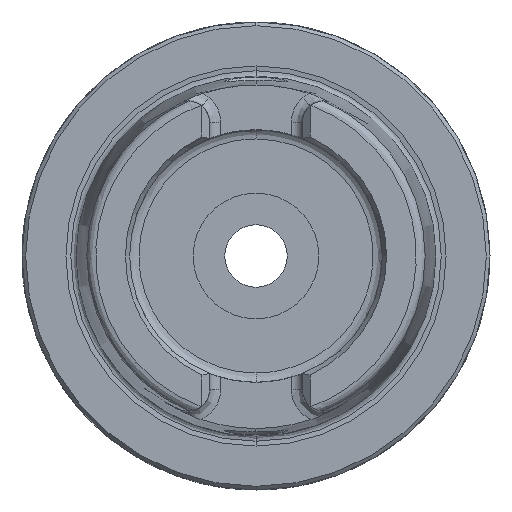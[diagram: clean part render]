
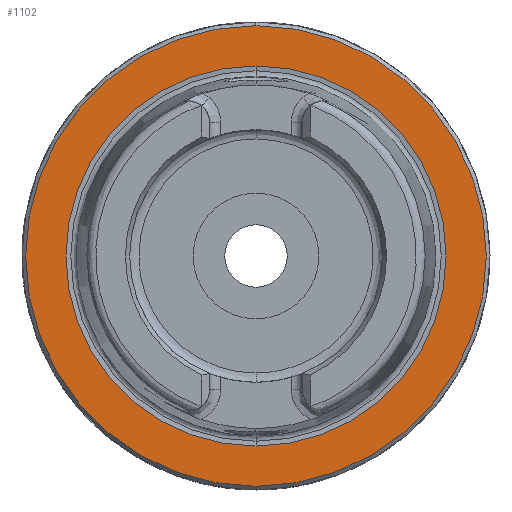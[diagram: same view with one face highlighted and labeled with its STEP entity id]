
A CAD part, left-side view. The second image highlights one B-rep face of the part: STEP entity #1102.
In plain terms, the highlighted planar face has unit normal (-1, 0, 0).
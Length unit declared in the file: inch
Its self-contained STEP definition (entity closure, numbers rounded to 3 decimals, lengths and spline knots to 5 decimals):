
#20 = FACE_OUTER_BOUND ( 'NONE', #2259, .T. ) ;
#330 = AXIS2_PLACEMENT_3D ( 'NONE', #3752, #1669, #3843 ) ;
#572 = EDGE_CURVE ( 'NONE', #8250, #3441, #1570, .T. ) ;
#716 = ORIENTED_EDGE ( 'NONE', *, *, #3345, .T. ) ;
#886 = CIRCLE ( 'NONE', #330, 1.0074 ) ;
#979 = CARTESIAN_POINT ( 'NONE',  ( 0., 0., 0. ) ) ;
#1002 = FACE_BOUND ( 'NONE', #7798, .T. ) ;
#1102 = ADVANCED_FACE ( 'NONE', ( #1002, #20 ), #2679, .T. ) ;
#1394 = DIRECTION ( 'NONE',  ( -1., 0., 0. ) ) ;
#1570 = CIRCLE ( 'NONE', #6870, 1.22047 ) ;
#1669 = DIRECTION ( 'NONE',  ( 1., 0., 0. ) ) ;
#1868 = VERTEX_POINT ( 'NONE', #6407 ) ;
#2137 = ORIENTED_EDGE ( 'NONE', *, *, #572, .F. ) ;
#2145 = CIRCLE ( 'NONE', #3652, 1.0074 ) ;
#2259 = EDGE_LOOP ( 'NONE', ( #2137, #4688 ) ) ;
#2679 = PLANE ( 'NONE',  #2824 ) ;
#2768 = AXIS2_PLACEMENT_3D ( 'NONE', #6786, #4822, #4156 ) ;
#2824 = AXIS2_PLACEMENT_3D ( 'NONE', #7368, #1394, #5359 ) ;
#3345 = EDGE_CURVE ( 'NONE', #6150, #1868, #886, .T. ) ;
#3441 = VERTEX_POINT ( 'NONE', #5368 ) ;
#3553 = DIRECTION ( 'NONE',  ( 1., 0., 0. ) ) ;
#3640 = DIRECTION ( 'NONE',  ( 0., 0., -1. ) ) ;
#3652 = AXIS2_PLACEMENT_3D ( 'NONE', #6381, #8411, #4986 ) ;
#3752 = CARTESIAN_POINT ( 'NONE',  ( 0., 0., 0. ) ) ;
#3843 = DIRECTION ( 'NONE',  ( 0., 0., 1. ) ) ;
#4156 = DIRECTION ( 'NONE',  ( 0., 0., -1. ) ) ;
#4688 = ORIENTED_EDGE ( 'NONE', *, *, #8499, .F. ) ;
#4822 = DIRECTION ( 'NONE',  ( 1., 0., 0. ) ) ;
#4951 = EDGE_CURVE ( 'NONE', #1868, #6150, #2145, .T. ) ;
#4986 = DIRECTION ( 'NONE',  ( 0., 0., 1. ) ) ;
#5359 = DIRECTION ( 'NONE',  ( 0., 0., 1. ) ) ;
#5368 = CARTESIAN_POINT ( 'NONE',  ( 0., 0., 1.22047 ) ) ;
#6150 = VERTEX_POINT ( 'NONE', #7474 ) ;
#6381 = CARTESIAN_POINT ( 'NONE',  ( 0., 0., 0. ) ) ;
#6407 = CARTESIAN_POINT ( 'NONE',  ( 0., 0., -1.0074 ) ) ;
#6589 = ORIENTED_EDGE ( 'NONE', *, *, #4951, .T. ) ;
#6786 = CARTESIAN_POINT ( 'NONE',  ( 0., 0., 0. ) ) ;
#6870 = AXIS2_PLACEMENT_3D ( 'NONE', #979, #3553, #3640 ) ;
#7368 = CARTESIAN_POINT ( 'NONE',  ( 0., 1.22047, 0. ) ) ;
#7474 = CARTESIAN_POINT ( 'NONE',  ( 0., 0., 1.0074 ) ) ;
#7798 = EDGE_LOOP ( 'NONE', ( #716, #6589 ) ) ;
#7864 = CARTESIAN_POINT ( 'NONE',  ( 0., 0., -1.22047 ) ) ;
#8250 = VERTEX_POINT ( 'NONE', #7864 ) ;
#8333 = CIRCLE ( 'NONE', #2768, 1.22047 ) ;
#8411 = DIRECTION ( 'NONE',  ( 1., 0., 0. ) ) ;
#8499 = EDGE_CURVE ( 'NONE', #3441, #8250, #8333, .T. ) ;
